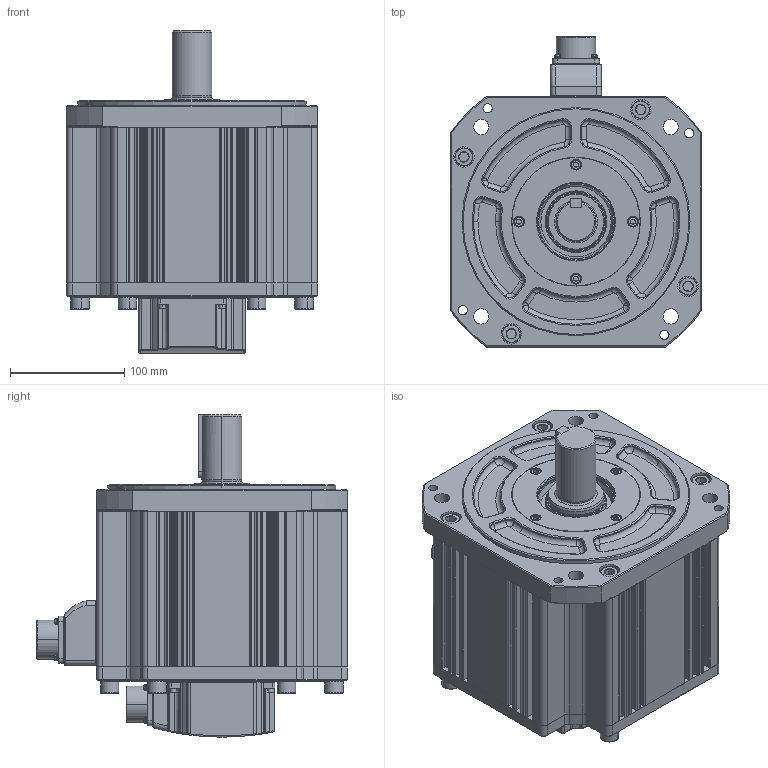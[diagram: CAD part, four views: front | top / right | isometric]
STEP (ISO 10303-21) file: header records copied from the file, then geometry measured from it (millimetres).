
FILE_DESCRIPTION (( 'STEP AP214' ), '1' );
FILE_NAME ('FM22GA005-1G03_Out Line(APM-FG55D_K1,FG44G_K1,FG30M_K1).STEP', '2019-07-11T01:11:14', ( '' ), ( '' ), 'SwSTEP 2.0', 'SolidWorks 2011', '' );
FILE_SCHEMA (( 'AUTOMOTIVE_DESIGN' ));
Length unit declared in the file: millimetre
Products named in the file (1): FM22GA005-1G03_Out Line(APM-FG55D_K1,FG44G_K1,FG30M_K1)
Bounding box: 220 x 272.5 x 282.5 mm (x, y, z)
Volume: 7592488.1 mm3; surface area: 637549.6 mm2
Topology: 59 solids, 59 shells, 2146 faces, 5335 edges, 3375 vertices
Faces by surface type: cylinder 842, plane 721, cone 279, torus 159, bspline 145
Entity records: 96529 total; most frequent: CARTESIAN_POINT 20807, DIRECTION 11091, ORIENTED_EDGE 10530, EDGE_CURVE 5265, AXIS2_PLACEMENT_3D 4299, VERTEX_POINT 3375, LINE 2493, VECTOR 2493
